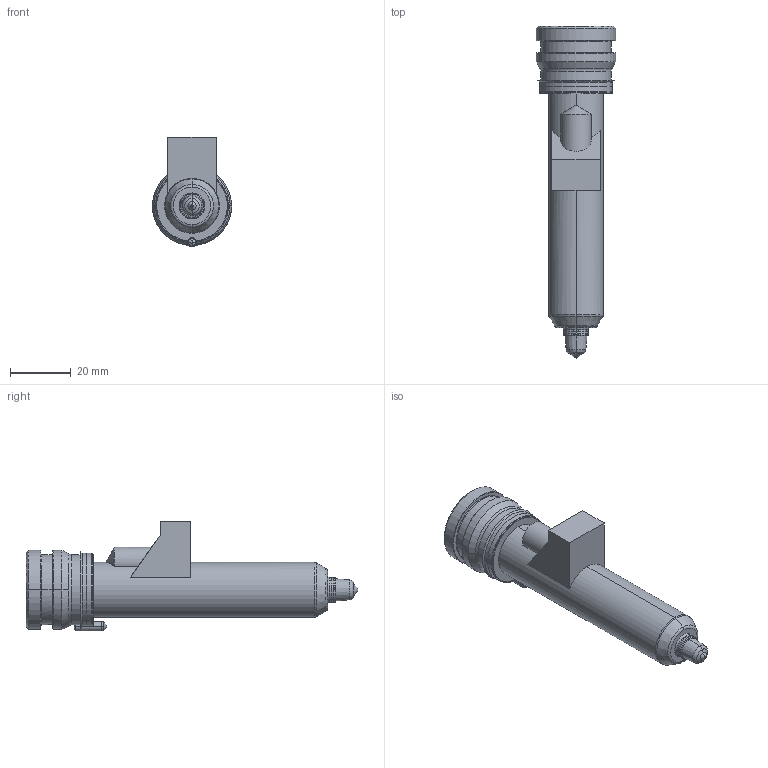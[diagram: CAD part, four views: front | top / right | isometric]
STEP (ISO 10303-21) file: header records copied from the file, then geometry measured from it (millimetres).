
FILE_DESCRIPTION((''),'2;1');
FILE_NAME('TH18091-M-1B50-PK-JG','2023-12-14T',('umhib'),('Thermoplay S.p.A.'),'PRO/ENGINEER BY PARAMETRIC TECHNOLOGY CORPORATION, 2017170','PRO/ENGINEER BY PARAMETRIC TECHNOLOGY CORPORATION, 2017170','');
FILE_SCHEMA(('CONFIG_CONTROL_DESIGN'));
Length unit declared in the file: millimetre
Products named in the file (1): TH18091-M-1B50-PK-JG
Bounding box: 26 x 109 x 36.1 mm (x, y, z)
Volume: 22525.4 mm3; surface area: 17481.7 mm2
Topology: 1 solids, 2 shells, 389 faces, 993 edges, 609 vertices
Faces by surface type: cylinder 149, plane 87, cone 62, torus 56, bspline 22, sphere 11, extrusion 2
Entity records: 16887 total; most frequent: CARTESIAN_POINT 5244, DIRECTION 1992, ORIENTED_EDGE 1960, EDGE_CURVE 982, AXIS2_PLACEMENT_3D 802, VERTEX_POINT 609, CIRCLE 436, EDGE_LOOP 412
